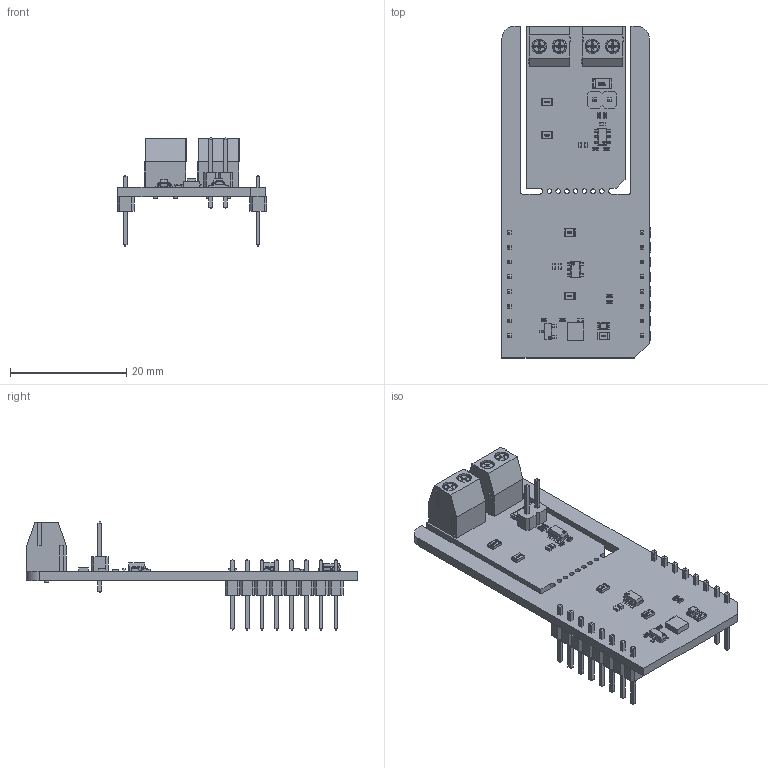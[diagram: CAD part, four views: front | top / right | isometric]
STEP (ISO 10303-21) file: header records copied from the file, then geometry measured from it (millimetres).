
FILE_DESCRIPTION(('Open CASCADE Model'),'2;1');
FILE_NAME('Open CASCADE Shape Model','2025-10-09T11:52:57',('Author'),( 'Open CASCADE'),'Open CASCADE STEP processor 7.5','Open CASCADE 7.5' ,'Unknown');
FILE_SCHEMA(('AUTOMOTIVE_DESIGN { 1 0 10303 214 1 1 1 1 }'));
Length unit declared in the file: millimetre
Products named in the file (50): PCB; Board; Open CASCADE STEP translator 7.5 2.1.1; R9; User Library-R_0402; R10; User Library-R_1206; R8; J1; User Library-Pin Header Strip 1x2; C6; User Library-SMD CAPACITOR0402; JP3; User Library-R_0805; TB1; Screw Terminal Block 3.5mm 2-way; TB2; C5; R7; R1; LD1; led_0805_green; R2; C1; R4; Q1; SOT23-3; U1; 7005052864; Extruded; MBD1; Header 1x8; Free-Models; 1240637040; User_Library-PinHeaderX5-1_PinHeaderX5_Body_1; User_Library-PinHeaderX5-1_PinHeaderX5_Pins_1; C2; C3; C4; JP1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
Assembly tree (68 placements, depth 7):
  PCB
    Board
      Open CASCADE STEP translator 7.5 2.1.1
    R9
      User Library-R_0402
    R10
      User Library-R_1206
    R8
      User Library-R_0402
    J1
      User Library-Pin Header Strip 1x2
    C6
      User Library-SMD CAPACITOR0402
    JP3
      User Library-R_0805
    TB1
      Screw Terminal Block 3.5mm 2-way
    TB2
      Screw Terminal Block 3.5mm 2-way
    C5
      User Library-SMD CAPACITOR0402
    R7
      User Library-R_0402
    R1
      User Library-R_0805
    LD1
      led_0805_green
    R2
      User Library-R_0402
    C1
      User Library-SMD CAPACITOR0402
    R4
      User Library-R_0402
    Q1
      SOT23-3
    U1
      7005052864
        Extruded
    MBD1
      Header 1x8  x2
        PCB
          Free-Models
            1240637040  x2
              User_Library-PinHeaderX5-1_PinHeaderX5_Body_1
              User_Library-PinHeaderX5-1_PinHeaderX5_Pins_1
    C2
      User Library-SMD CAPACITOR0402
    C3
      User Library-SMD CAPACITOR0402
    C4
      User Library-SMD CAPACITOR0402
    JP1
      User Library-R_0805
    JP2
      User Library-R_0805
    JP4
      User Library-R_0805
    R3
      User Library-R_0402
    R5
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Bounding box: 25.78 x 57.15 x 18.62 mm (x, y, z)
Volume: 3342.6 mm3; surface area: 6517.9 mm2
Topology: 91 solids, 91 shells, 2620 faces, 6557 edges, 4190 vertices
Faces by surface type: plane 1871, bspline 451, cylinder 232, sphere 58, torus 4, cone 4
Full cylindrical faces by diameter (mm): 0.75 x4, 0.8 x7, 1.8 x4, 2.3 x4, 2.5 x4
Entity records: 38210 total; most frequent: CARTESIAN_POINT 11330, ORIENTED_EDGE 4710, DIRECTION 4228, EDGE_CURVE 2355, LINE 1888, VECTOR 1888, VERTEX_POINT 1508, AXIS2_PLACEMENT_3D 1170
